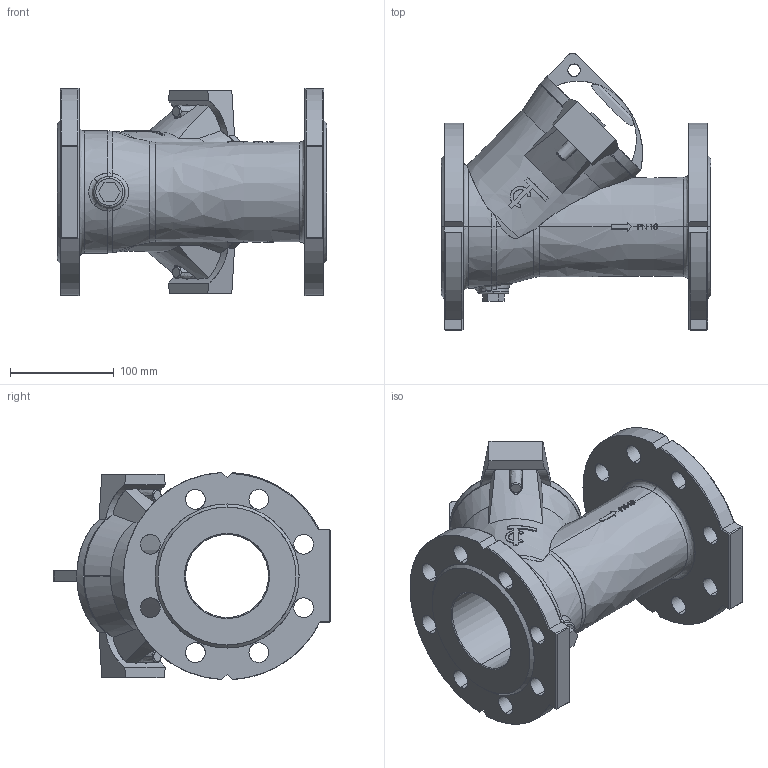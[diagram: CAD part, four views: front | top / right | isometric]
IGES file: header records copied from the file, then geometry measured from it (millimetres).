
Start section: SolidWorks IGES file using analytic representation for surfaces
Global section: file name: D:\part\3D Projects\CBL X240\DN 80\CBL DN80.IGS; native system: SolidWorks 2009; preprocessor: SolidWorks 2009; author: zhixin.zheng; date: 100505.151927; units: millimetre
Bounding box: 260 x 267.63 x 199.75 mm (x, y, z)
Surface area: 325776.2 mm2 (no closed solid volume)
Topology: 0 solids, 0 shells, 392 faces, 4584 edges, 4583 vertices
Faces by surface type: bspline 267, revolution 125
